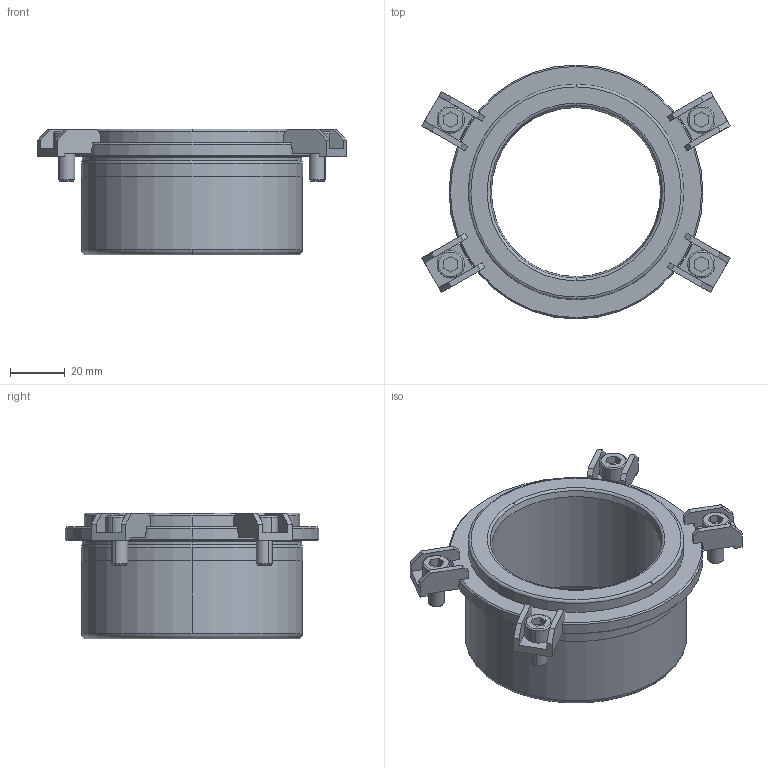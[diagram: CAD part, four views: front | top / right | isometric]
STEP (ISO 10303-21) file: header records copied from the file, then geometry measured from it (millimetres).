
FILE_DESCRIPTION((''),'2;1');
FILE_NAME('B42_050_036.stp','2008-11-04T14:26:29',(''),(''),'Mechanical Desktop 2009','Mechanical Desktop 2009',', , ');
FILE_SCHEMA(('CONFIG_CONTROL_DESIGN'));
Length unit declared in the file: millimetre
Products named in the file (2): Product; blmdl1
Assembly tree (1 placements, depth 2):
  Product
    blmdl1
Bounding box: 112.91 x 93 x 46 mm (x, y, z)
Volume: 110525.2 mm3; surface area: 34273.6 mm2
Topology: 9 solids, 9 shells, 233 faces, 598 edges, 394 vertices
Faces by surface type: plane 137, cylinder 48, cone 20, torus 16, bspline 12
Entity records: 7707 total; most frequent: CARTESIAN_POINT 1755, DIRECTION 1258, ORIENTED_EDGE 1196, EDGE_CURVE 598, AXIS2_PLACEMENT_3D 437, VERTEX_POINT 394, VECTOR 384, LINE 384
